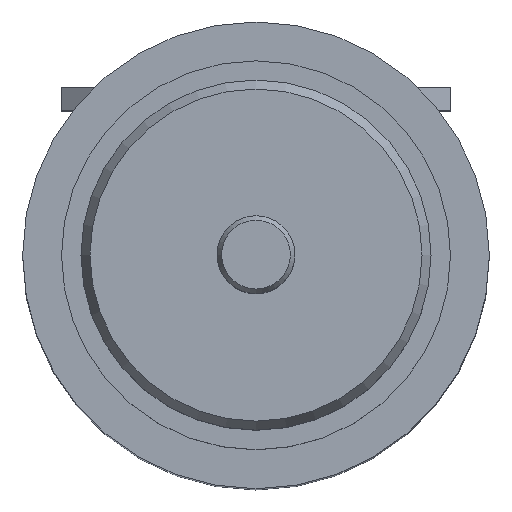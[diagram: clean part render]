
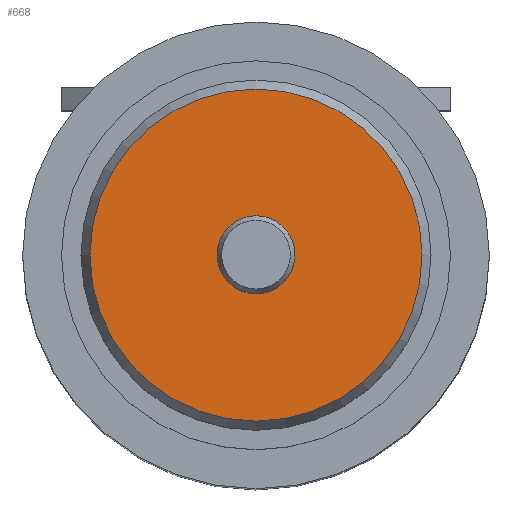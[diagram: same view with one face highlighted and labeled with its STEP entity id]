
A CAD part, top view. The second image highlights one B-rep face of the part: STEP entity #668.
In plain terms, the highlighted planar face has unit normal (0, 0, 1).
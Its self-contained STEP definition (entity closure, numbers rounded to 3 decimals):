
#39=CIRCLE('',#3233,2.135);
#40=CIRCLE('',#3234,0.5);
#668=ADVANCED_FACE('',(#1299,#1300),#805,.T.);
#805=PLANE('',#3235);
#1299=FACE_BOUND('',#1488,.T.);
#1300=FACE_BOUND('',#1489,.T.);
#1488=EDGE_LOOP('',(#2258));
#1489=EDGE_LOOP('',(#2259));
#2258=ORIENTED_EDGE('',*,*,#2910,.T.);
#2259=ORIENTED_EDGE('',*,*,#2911,.F.);
#2525=VERTEX_POINT('',#5401);
#2526=VERTEX_POINT('',#5403);
#2910=EDGE_CURVE('',#2525,#2525,#39,.T.);
#2911=EDGE_CURVE('',#2526,#2526,#40,.T.);
#3233=AXIS2_PLACEMENT_3D('',#5400,#3766,#3767);
#3234=AXIS2_PLACEMENT_3D('',#5402,#3768,#3769);
#3235=AXIS2_PLACEMENT_3D('',#5404,#3770,#3771);
#3766=DIRECTION('',(0.,0.,1.));
#3767=DIRECTION('',(1.,0.,0.));
#3768=DIRECTION('',(0.,0.,1.));
#3769=DIRECTION('',(1.,0.,0.));
#3770=DIRECTION('',(0.,0.,1.));
#3771=DIRECTION('',(1.,0.,0.));
#5400=CARTESIAN_POINT('',(0.,0.,1.9));
#5401=CARTESIAN_POINT('',(2.135,0.,1.9));
#5402=CARTESIAN_POINT('',(0.,0.,1.9));
#5403=CARTESIAN_POINT('',(0.5,0.,1.9));
#5404=CARTESIAN_POINT('',(0.,0.,1.9));
